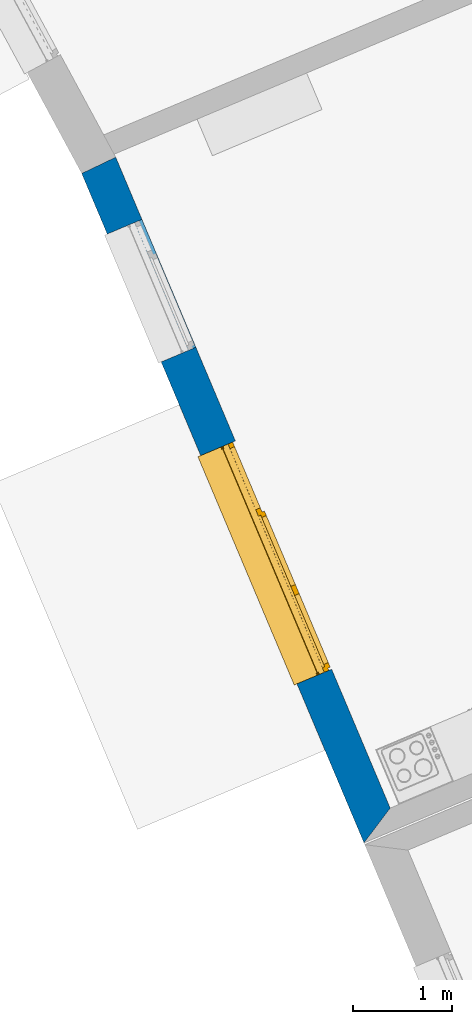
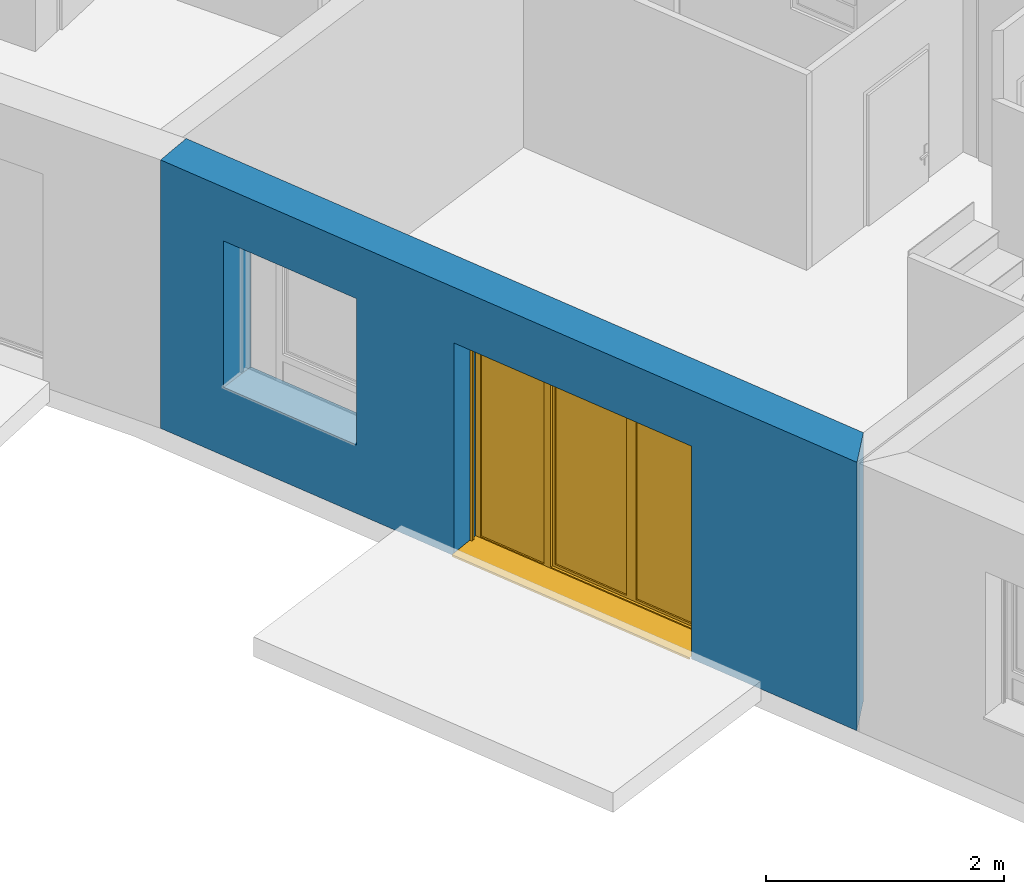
# One storey, part 57 of 195: 1 wall, 1 window, 2 openings.
"""IFC2X3 building model written with IfcOpenShell, lengths in metres."""

from ifc_helpers import new_model, entity, si_unit, converted_unit, derived_unit, money_unit, direction, frame, origin_with_axes, place, context, subcontext, project, spatial, polyline, outline, extrude, open_shell, faceted_brep, surface_model, source, transform, mapped, material, layer, layer_set, layer_usage, type_object, element, fill, save


model = new_model("IFC2X3")

# Units and contexts
model_context = context("Model", 3, precision=1e-05, world=origin_with_axes(), true_north=direction((0.0, 1.0)))
body_context = subcontext(model_context, "Body", "Model", "MODEL_VIEW")
ifc_project = project(units=[si_unit("LENGTHUNIT", "METRE"), si_unit("AREAUNIT", "SQUARE_METRE"), si_unit("VOLUMEUNIT", "CUBIC_METRE"), converted_unit("PLANEANGLEUNIT", "DEGREE", entity("IfcPlaneAngleMeasure", 0.0174532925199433), si_unit("PLANEANGLEUNIT", "RADIAN"), dimensions=[0, 0, 0, 0, 0, 0, 0]), money_unit("CHF"), converted_unit("TIMEUNIT", "Year", entity("IfcTimeMeasure", 31557600.0), si_unit("TIMEUNIT", "SECOND"), dimensions=[0, 0, 1, 0, 0, 0, 0]), si_unit("MASSUNIT", "GRAM", prefix="KILO"), si_unit("THERMODYNAMICTEMPERATUREUNIT", "DEGREE_CELSIUS"), si_unit("LUMINOUSINTENSITYUNIT", "LUMEN"), si_unit("ENERGYUNIT", "JOULE", prefix="MEGA"), derived_unit("THERMALCONDUCTANCEUNIT", [(si_unit("POWERUNIT", "WATT"), 1), (si_unit("LENGTHUNIT", "METRE"), -1), (si_unit("THERMODYNAMICTEMPERATUREUNIT", "KELVIN"), -1)]), derived_unit("SPECIFICHEATCAPACITYUNIT", [(si_unit("ENERGYUNIT", "JOULE"), 1), (si_unit("MASSUNIT", "GRAM", prefix="KILO"), -1), (si_unit("THERMODYNAMICTEMPERATUREUNIT", "KELVIN"), -1)]), derived_unit("MASSDENSITYUNIT", [(si_unit("MASSUNIT", "GRAM", prefix="KILO"), 1), (si_unit("VOLUMEUNIT", "CUBIC_METRE"), -1)])], contexts=[model_context])

# Site, building, storey
site_placement = place(None, origin_with_axes())
site = spatial("IfcSite", under=ifc_project, at=site_placement, Name="Site", CompositionType="ELEMENT")
building_placement = place(site_placement, origin_with_axes())
building = spatial("IfcBuilding", under=site, at=building_placement, Name="Bâtiment", CompositionType="ELEMENT")
storey_placement = place(building_placement, origin_with_axes())
storey = spatial("IfcBuildingStorey", under=building, at=storey_placement, Name="rdc", CompositionType="ELEMENT", Elevation=0.0)

# Wall, openings, window
ifc_material_1 = material(Name="Parpaing 312445824")
ifc_layer_1 = layer(ifc_material_1, 0.22, ventilated="UNKNOWN")
ifc_material_2 = material(Name="Isolant styromousse 301821074")
ifc_layer_2 = layer(ifc_material_2, 0.16, ventilated="UNKNOWN")
ifc_layer_set = layer_set([ifc_layer_1, ifc_layer_2], Name="isol int 22+16 0836643197")
ifc_layer_usage = layer_usage(ifc_layer_set, "AXIS2", "POSITIVE", 0.0)
wall_type = type_object("IfcWallType", Name="isol int 22+16 0836643197 380", PredefinedType="NOTDEFINED")
wall_placement = place(storey_placement, frame((9560.431539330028, -1038.563917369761, 57.7), z_axis=(0.0, 0.0, 1.0), x_axis=(0.3885669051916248, -0.9214205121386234, 0.0)))
wall = element("IfcWallStandardCase", 1, at=wall_placement, inside=storey, type_object=wall_type, material=ifc_layer_usage, Name="Mur-113", context=body_context, shape_type="SweptSolid", body=[
    extrude(outline(polyline([(0.0, 0.0), (7.331275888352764, 0.0), (7.111275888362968, 0.3799999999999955), (-0.01830169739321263, 0.3799999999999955), (0.0, 0.0)])), origin_with_axes(), (0.0, 0.0, 1.0), 2.75),
])
opening_1_placement = place(wall_placement, frame((4.33985535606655, 0.0, 0.0), z_axis=(0.0, 0.0, 1.0), x_axis=(1.0, 0.0, 0.0)))
opening_1 = element("IfcOpeningElement", 2, at=opening_1_placement, cuts=wall, Name="Fen-045", context=body_context, shape_type="Brep", body=[
    faceted_brep([(-1.25, 0.4800000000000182, 2.18), (1.250000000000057, 0.4800000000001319, 2.18), (1.25, 3.005842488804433, 2.18), (-1.25, 3.005842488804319, 2.18), (-1.25, 0.4800000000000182, 2.380000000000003), (1.250000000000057, 0.4800000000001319, 2.380000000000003), (1.250000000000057, 0.3000000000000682, 2.18), (1.250000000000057, 0.3000000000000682, 0.0), (1.25, 3.005842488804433, 0.0), (-1.25, 3.005842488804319, 0.0), (-1.25, 0.3000000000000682, 2.18), (-1.25, 0.3000000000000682, 0.0), (-1.25, 0.2200000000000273, 2.18), (-1.25, 0.2200000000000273, 2.380000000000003), (1.25, 0.220000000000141, 2.380000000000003), (1.25, 0.220000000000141, 2.18), (1.250000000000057, -2.625842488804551, 2.18), (1.250000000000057, -2.625842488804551, 0.0), (-1.25, -2.625842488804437, 0.0), (-1.25, -2.625842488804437, 2.18)], [[[0, 1, 2, 3]], [[1, 0, 4, 5]], [[1, 6, 7, 8, 2]], [[2, 8, 9, 3]], [[10, 0, 3, 9, 11]], [[0, 10, 12, 13, 4]], [[4, 13, 14, 5]], [[6, 1, 5, 14, 15]], [[6, 15, 16, 17, 7]], [[7, 11, 9, 8]], [[12, 10, 11, 18, 19]], [[12, 15, 14, 13]], [[15, 12, 19, 16]], [[19, 18, 17, 16]], [[11, 7, 17, 18]]]),
])
opening_2_placement = place(wall_placement, frame((1.363914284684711, 0.0, 0.7000000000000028), z_axis=(0.0, 0.0, 1.0), x_axis=(1.0, 0.0, 0.0)))
element("IfcOpeningElement", 3, at=opening_2_placement, cuts=wall, Name="Fen-045", context=body_context, shape_type="Brep", body=[
    faceted_brep([(-0.7000000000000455, 0.4800000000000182, 1.5), (0.7000000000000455, 0.4800000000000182, 1.5), (0.6999999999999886, 3.005842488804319, 1.5), (-0.6999999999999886, 3.005842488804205, 1.5), (-0.7000000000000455, 0.4800000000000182, 1.700000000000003), (0.7000000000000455, 0.4800000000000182, 1.700000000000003), (0.6999999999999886, 0.3000000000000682, 1.5), (0.7000000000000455, 0.2999999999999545, 0.0), (0.6999999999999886, 3.005842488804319, 0.0), (-0.6999999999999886, 3.005842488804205, 0.0), (-0.6999999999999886, 0.3000000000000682, 1.5), (-0.6999999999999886, 0.3000000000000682, 0.0), (-0.7000000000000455, 0.2199999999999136, 1.5), (-0.7000000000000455, 0.2199999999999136, 1.700000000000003), (0.6999999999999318, 0.2200000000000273, 1.700000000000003), (0.6999999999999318, 0.2200000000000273, 1.5), (0.6999999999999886, -2.625842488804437, 1.5), (0.6999999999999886, -2.625842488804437, 0.0), (-0.6999999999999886, -2.625842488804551, 0.0), (-0.6999999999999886, -2.625842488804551, 1.5)], [[[0, 1, 2, 3]], [[1, 0, 4, 5]], [[1, 6, 7, 8, 2]], [[2, 8, 9, 3]], [[10, 0, 3, 9, 11]], [[0, 10, 12, 13, 4]], [[4, 13, 14, 5]], [[6, 1, 5, 14, 15]], [[6, 15, 16, 17, 7]], [[7, 11, 9, 8]], [[12, 10, 11, 18, 19]], [[12, 15, 14, 13]], [[15, 12, 19, 16]], [[19, 18, 17, 16]], [[11, 7, 17, 18]]]),
])
window_style = type_object("IfcWindowStyle", Name="Fenêtre variable 27", ConstructionType="NOTDEFINED", OperationType="TRIPLE_PANEL_VERTICAL", ParameterTakesPrecedence=False, Sizeable=False)
shared_shape = source(origin_with_axes(), body_context, "Body", "SurfaceModel", [
    surface_model("IfcShellBasedSurfaceModel", [(1.25, -0.05100000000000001, 0.05), (-1.25, -0.05100000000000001, 0.05000000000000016), (-1.25, -0.05100000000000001, 0.04000000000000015), (1.25, -0.05100000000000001, 0.04), (-1.25, -0.3799999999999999, 0.02900000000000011), (1.25, -0.3799999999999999, 0.02899999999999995), (-1.25, -0.3799999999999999, 0.009000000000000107), (1.25, -0.3799999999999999, 0.008999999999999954), (-1.25, -0.3699999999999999, 0.01900000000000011), (1.25, -0.3699999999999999, 0.01899999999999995)], [open_shell([[[0, 1, 2, 3]], [[3, 2, 4, 5]], [[5, 4, 6, 7]], [[7, 6, 8, 9]]])]),
    faceted_brep([(1.25, -0.1300000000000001, 2.38), (1.25, 0.1299999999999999, 2.38), (1.247, 0.1299999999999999, 2.38), (1.247, -0.1300000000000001, 2.38), (1.25, -0.1300000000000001, 2.18), (1.25, 0.1299999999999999, 2.18), (1.247, 0.1299999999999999, 2.18), (1.247, -0.1300000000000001, 2.18)], [[[0, 1, 2, 3]], [[0, 4, 5, 1]], [[1, 5, 6, 2]], [[3, 2, 6, 7]], [[4, 0, 3, 7]], [[5, 4, 7, 6]]]),
    faceted_brep([(-1.247, -0.1299999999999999, 2.38), (-1.247, 0.1300000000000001, 2.38), (-1.25, 0.1300000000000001, 2.38), (-1.25, -0.1299999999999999, 2.38), (-1.247, -0.1299999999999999, 2.18), (-1.247, 0.1300000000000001, 2.18), (-1.25, 0.1300000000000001, 2.18), (-1.25, -0.1299999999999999, 2.18)], [[[0, 1, 2, 3]], [[0, 4, 5, 1]], [[1, 5, 6, 2]], [[3, 2, 6, 7]], [[4, 0, 3, 7]], [[5, 4, 7, 6]]]),
    faceted_brep([(1.247, -0.1300000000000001, 2.18), (1.247, -0.1300000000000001, 2.38), (-1.247, -0.1299999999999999, 2.38), (-1.247, -0.1299999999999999, 2.18), (1.247, -0.1270000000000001, 2.18), (1.247, -0.1270000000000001, 2.377), (1.247, 0.1269999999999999, 2.377), (1.247, 0.1269999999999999, 2.183), (1.247, -0.1080000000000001, 2.183), (1.247, -0.1080000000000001, 2.18), (1.247, 0.1299999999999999, 2.18), (1.247, 0.1299999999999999, 2.38), (-1.247, 0.1300000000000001, 2.38), (-1.247, 0.1300000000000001, 2.18), (-1.247, -0.1079999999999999, 2.18), (-1.247, -0.1079999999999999, 2.183), (-1.247, 0.1270000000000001, 2.183), (-1.247, 0.1270000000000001, 2.377), (-1.247, -0.1269999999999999, 2.377), (-1.247, -0.1269999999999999, 2.18)], [[[0, 1, 2, 3]], [[0, 4, 5, 6, 7, 8, 9, 10, 11, 1]], [[1, 11, 12, 2]], [[3, 2, 12, 13, 14, 15, 16, 17, 18, 19]], [[4, 0, 3, 19]], [[5, 4, 19, 18]], [[6, 5, 18, 17]], [[7, 6, 17, 16]], [[8, 7, 16, 15]], [[9, 8, 15, 14]], [[10, 9, 14, 13]], [[11, 10, 13, 12]]]),
    faceted_brep([(1.244, -0.08075423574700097, 2.265760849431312), (1.244, -0.07705479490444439, 2.251954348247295), (1.244, -0.07101408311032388, 2.239), (1.244, -0.06281564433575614, 2.227291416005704), (1.244, -0.05270858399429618, 2.217184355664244), (1.244, -0.04099999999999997, 2.208985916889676), (1.244, -0.02804565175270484, 2.202945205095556), (1.244, -0.01423915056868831, 2.199245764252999), (1.244, 0.0, 2.198), (1.244, 0.01423915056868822, 2.199245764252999), (1.244, 0.02804565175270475, 2.202945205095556), (1.244, 0.0409999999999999, 2.208985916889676), (1.244, 0.05270858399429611, 2.217184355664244), (1.244, 0.06281564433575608, 2.227291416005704), (1.244, 0.07101408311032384, 2.239), (1.244, 0.07705479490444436, 2.251954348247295), (1.244, 0.08075423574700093, 2.265760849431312), (1.244, 0.08199999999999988, 2.28), (1.244, 0.08075423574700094, 2.294239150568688), (1.244, 0.07705479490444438, 2.308045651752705), (1.244, 0.07101408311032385, 2.321), (1.244, 0.0628156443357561, 2.332708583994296), (1.244, 0.05270858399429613, 2.342815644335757), (1.244, 0.04099999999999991, 2.351014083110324), (1.244, 0.02804565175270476, 2.357054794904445), (1.244, 0.01423915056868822, 2.360754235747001), (1.244, 0.0, 2.362), (1.244, -0.01423915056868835, 2.360754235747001), (1.244, -0.0280456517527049, 2.357054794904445), (1.244, -0.04100000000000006, 2.351014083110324), (1.244, -0.05270858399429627, 2.342815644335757), (1.244, -0.06281564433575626, 2.332708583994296), (1.244, -0.07101408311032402, 2.321), (1.244, -0.07705479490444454, 2.308045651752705), (1.244, -0.08075423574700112, 2.294239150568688), (1.244, -0.08200000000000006, 2.28), (-1.244, -0.08075423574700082, 2.265760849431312), (-1.244, -0.07705479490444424, 2.251954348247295), (-1.244, -0.07101408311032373, 2.239), (-1.244, -0.06281564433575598, 2.227291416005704), (-1.244, -0.05270858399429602, 2.217184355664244), (-1.244, -0.04099999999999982, 2.208985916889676), (-1.244, -0.02804565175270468, 2.202945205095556), (-1.244, -0.01423915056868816, 2.199245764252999), (-1.244, 0.0, 2.198), (-1.244, 0.01423915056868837, 2.199245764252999), (-1.244, 0.02804565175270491, 2.202945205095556), (-1.244, 0.04100000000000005, 2.208985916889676), (-1.244, 0.05270858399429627, 2.217184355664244), (-1.244, 0.06281564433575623, 2.227291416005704), (-1.244, 0.07101408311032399, 2.239), (-1.244, 0.07705479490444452, 2.251954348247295), (-1.244, 0.08075423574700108, 2.265760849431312), (-1.244, 0.08200000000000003, 2.28), (-1.244, 0.0807542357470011, 2.294239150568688), (-1.244, 0.07705479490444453, 2.308045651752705), (-1.244, 0.071014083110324, 2.321), (-1.244, 0.06281564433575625, 2.332708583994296), (-1.244, 0.05270858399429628, 2.342815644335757), (-1.244, 0.04100000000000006, 2.351014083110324), (-1.244, 0.02804565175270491, 2.357054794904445), (-1.244, 0.01423915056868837, 2.360754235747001), (-1.244, 0.0, 2.362), (-1.244, -0.0142391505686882, 2.360754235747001), (-1.244, -0.02804565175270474, 2.357054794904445), (-1.244, -0.0409999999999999, 2.351014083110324), (-1.244, -0.05270858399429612, 2.342815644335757), (-1.244, -0.06281564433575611, 2.332708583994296), (-1.244, -0.07101408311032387, 2.321), (-1.244, -0.07705479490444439, 2.308045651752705), (-1.244, -0.08075423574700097, 2.294239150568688), (-1.244, -0.0819999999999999, 2.28)], [[[0, 1, 2, 3, 4, 5, 6, 7, 8, 9, 10, 11, 12, 13, 14, 15, 16, 17, 18, 19, 20, 21, 22, 23, 24, 25, 26, 27, 28, 29, 30, 31, 32, 33, 34, 35]], [[1, 0, 36, 37]], [[2, 1, 37, 38]], [[3, 2, 38, 39]], [[4, 3, 39, 40]], [[5, 4, 40, 41]], [[6, 5, 41, 42]], [[7, 6, 42, 43]], [[8, 7, 43, 44]], [[9, 8, 44, 45]], [[10, 9, 45, 46]], [[11, 10, 46, 47]], [[12, 11, 47, 48]], [[13, 12, 48, 49]], [[14, 13, 49, 50]], [[15, 14, 50, 51]], [[16, 15, 51, 52]], [[17, 16, 52, 53]], [[18, 17, 53, 54]], [[19, 18, 54, 55]], [[20, 19, 55, 56]], [[21, 20, 56, 57]], [[22, 21, 57, 58]], [[23, 22, 58, 59]], [[24, 23, 59, 60]], [[25, 24, 60, 61]], [[26, 25, 61, 62]], [[27, 26, 62, 63]], [[28, 27, 63, 64]], [[29, 28, 64, 65]], [[30, 29, 65, 66]], [[31, 30, 66, 67]], [[32, 31, 67, 68]], [[33, 32, 68, 69]], [[34, 33, 69, 70]], [[35, 34, 70, 71]], [[0, 35, 71, 36]], [[36, 71, 70, 69, 68, 67, 66, 65, 64, 63, 62, 61, 60, 59, 58, 57, 56, 55, 54, 53, 52, 51, 50, 49, 48, 47, 46, 45, 44, 43, 42, 41, 40, 39, 38, 37]]]),
    faceted_brep([(-1.25, -0.105, 0.03), (-1.25, -0.13, 0.03), (-1.25, -0.1299999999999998, 2.18), (-1.25, -0.1049999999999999, 2.18), (-1.225, -0.105, 0.03), (-1.225, -0.108, 0.03), (-1.247, -0.108, 0.03), (-1.247, -0.127, 0.03), (-1.225, -0.127, 0.03), (-1.225, -0.13, 0.03), (-1.225, -0.1299999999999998, 2.18), (-1.225, -0.1269999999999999, 2.18), (-1.247, -0.1269999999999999, 2.18), (-1.247, -0.1079999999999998, 2.18), (-1.225, -0.1079999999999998, 2.18), (-1.225, -0.1049999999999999, 2.18)], [[[0, 1, 2, 3]], [[0, 4, 5, 6, 7, 8, 9, 1]], [[1, 9, 10, 2]], [[3, 2, 10, 11, 12, 13, 14, 15]], [[4, 0, 3, 15]], [[5, 4, 15, 14]], [[6, 5, 14, 13]], [[7, 6, 13, 12]], [[8, 7, 12, 11]], [[9, 8, 11, 10]]]),
    faceted_brep([(1.25, -0.105, 0.03), (1.25, -0.1049999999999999, 2.18), (1.25, -0.1299999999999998, 2.18), (1.25, -0.13, 0.03), (1.225, -0.105, 0.03), (1.225, -0.1049999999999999, 2.18), (1.225, -0.1079999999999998, 2.18), (1.247, -0.1079999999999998, 2.18), (1.247, -0.1269999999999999, 2.18), (1.225, -0.1269999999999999, 2.18), (1.225, -0.1299999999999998, 2.18), (1.225, -0.13, 0.03), (1.225, -0.127, 0.03), (1.247, -0.127, 0.03), (1.247, -0.108, 0.03), (1.225, -0.108, 0.03)], [[[0, 1, 2, 3]], [[4, 5, 1, 0]], [[1, 5, 6, 7, 8, 9, 10, 2]], [[3, 2, 10, 11]], [[0, 3, 11, 12, 13, 14, 15, 4]], [[15, 6, 5, 4]], [[14, 7, 6, 15]], [[13, 8, 7, 14]], [[12, 9, 8, 13]], [[11, 10, 9, 12]]]),
    surface_model("IfcShellBasedSurfaceModel", [(1.247, -0.115, 2.28), (-1.247, -0.1149999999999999, 2.28), (-1.247, -0.1199999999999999, 2.28), (1.247, -0.1200000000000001, 2.28), (1.247, -0.115, 2.28), (1.247, -0.1200000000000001, 2.28), (-1.247, -0.1199999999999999, 2.28), (-1.247, -0.1149999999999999, 2.28)], [open_shell([[[0, 1, 2, 3]], [[4, 5, 6, 7]]])]),
    faceted_brep([(1.247, -0.115, 2.28), (1.247, -0.1166666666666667, 2.263333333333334), (-1.247, -0.1166666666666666, 2.263333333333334), (-1.247, -0.1149999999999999, 2.28), (1.247, -0.1200000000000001, 2.28), (1.247, -0.1216666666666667, 2.263333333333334), (1.247, -0.1216666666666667, 2.246666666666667), (1.247, -0.1200000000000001, 2.23), (1.247, -0.115, 2.23), (1.247, -0.1166666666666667, 2.246666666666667), (-1.247, -0.1166666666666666, 2.246666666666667), (-1.247, -0.1149999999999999, 2.23), (-1.247, -0.1199999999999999, 2.23), (-1.247, -0.1216666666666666, 2.246666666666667), (-1.247, -0.1216666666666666, 2.263333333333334), (-1.247, -0.1199999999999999, 2.28)], [[[0, 1, 2, 3]], [[0, 4, 5, 6, 7, 8, 9, 1]], [[1, 9, 10, 2]], [[3, 2, 10, 11, 12, 13, 14, 15]], [[4, 0, 3, 15]], [[5, 4, 15, 14]], [[6, 5, 14, 13]], [[7, 6, 13, 12]], [[8, 7, 12, 11]], [[9, 8, 11, 10]]]),
    faceted_brep([(1.247, -0.115, 2.23), (1.247, -0.1166666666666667, 2.213333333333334), (-1.247, -0.1166666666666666, 2.213333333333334), (-1.247, -0.1149999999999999, 2.23), (1.247, -0.1200000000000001, 2.23), (1.247, -0.1216666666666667, 2.213333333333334), (1.247, -0.1216666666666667, 2.196666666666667), (1.247, -0.1200000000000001, 2.180000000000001), (1.247, -0.115, 2.180000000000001), (1.247, -0.1166666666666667, 2.196666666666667), (-1.247, -0.1166666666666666, 2.196666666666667), (-1.247, -0.1149999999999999, 2.180000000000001), (-1.247, -0.1199999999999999, 2.180000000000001), (-1.247, -0.1216666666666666, 2.196666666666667), (-1.247, -0.1216666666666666, 2.213333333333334), (-1.247, -0.1199999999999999, 2.23)], [[[0, 1, 2, 3]], [[0, 4, 5, 6, 7, 8, 9, 1]], [[1, 9, 10, 2]], [[3, 2, 10, 11, 12, 13, 14, 15]], [[4, 0, 3, 15]], [[5, 4, 15, 14]], [[6, 5, 14, 13]], [[7, 6, 13, 12]], [[8, 7, 12, 11]], [[9, 8, 11, 10]]]),
    faceted_brep([(1.225, 0.0, 2.13), (1.225, -0.02500000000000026, 2.13), (1.2, -0.02500000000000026, 2.13), (1.2, -0.05000000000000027, 2.13), (1.25, -0.05000000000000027, 2.13), (1.25, 0.0, 2.13), (1.225, 0.0, 0.05000000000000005), (1.225, -0.02500000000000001, 0.05000000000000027), (1.2, -0.02500000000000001, 0.05000000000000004), (1.2, -0.05000000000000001, 0.05000000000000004), (1.25, -0.05000000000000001, 0.05000000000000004), (1.25, 0.0, 0.05000000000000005)], [[[0, 1, 2, 3, 4, 5]], [[1, 0, 6, 7]], [[8, 2, 1, 7]], [[2, 8, 9, 3]], [[4, 3, 9, 10]], [[5, 4, 10, 11]], [[6, 0, 5, 11]], [[7, 6, 11, 10, 9, 8]]]),
    faceted_brep([(-0.4600000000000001, -0.02500000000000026, 2.13), (-0.4850000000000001, -0.02500000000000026, 2.13), (-0.4850000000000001, 0.0, 2.13), (-0.5300000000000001, 0.0, 2.13), (-0.5300000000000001, -0.05000000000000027, 2.13), (-0.4600000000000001, -0.05000000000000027, 2.13), (-0.4600000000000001, -0.02500000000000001, 0.05000000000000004), (-0.4850000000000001, -0.02500000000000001, 0.05000000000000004), (-0.4850000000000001, 0.0, 0.05000000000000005), (-0.5300000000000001, 0.0, 0.05000000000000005), (-0.5300000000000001, -0.05000000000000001, 0.05000000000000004), (-0.4600000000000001, -0.05000000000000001, 0.05000000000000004)], [[[0, 1, 2, 3, 4, 5]], [[1, 0, 6, 7]], [[8, 2, 1, 7]], [[2, 8, 9, 3]], [[9, 10, 4, 3]], [[10, 11, 5, 4]], [[6, 0, 5, 11]], [[7, 6, 11, 10, 9, 8]]]),
    faceted_brep([(-0.4600000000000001, -0.02500000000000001, 0.05000000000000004), (-0.4850000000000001, -0.02500000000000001, 0.05000000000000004), (-0.4850000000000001, 0.0, 0.05000000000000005), (-0.5300000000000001, 0.0, 0.05000000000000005), (-0.5300000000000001, -0.05000000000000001, 0.05000000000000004), (-0.4600000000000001, -0.05000000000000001, 0.05000000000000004), (1.2, -0.02500000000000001, 0.05000000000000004), (1.225, -0.02500000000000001, 0.05000000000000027), (1.225, -0.025, 0.02499999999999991), (-0.4850000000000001, -0.025, 0.02499999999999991), (-0.4850000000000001, 0.0, 0.02499999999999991), (1.225, 0.0, 0.02499999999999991), (1.225, 0.0, 0.05000000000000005), (1.25, 0.0, 0.05000000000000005), (1.25, 0.0, 0.0), (-1.25, 0.0, 0.0), (-1.25, 0.0, 0.05000000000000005), (-1.2, 0.0, 0.05000000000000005), (-1.2, -0.05000000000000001, 0.05000000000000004), (1.25, -0.05000000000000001, 0.05000000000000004), (1.2, -0.05000000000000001, 0.05000000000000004), (-1.25, -0.05000000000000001, 0.05000000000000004), (-1.25, -0.05, 0.0), (1.25, -0.05, 0.0)], [[[0, 1, 2, 3, 4, 5]], [[1, 0, 6, 7, 8, 9]], [[10, 2, 1, 9]], [[11, 12, 13, 14, 15, 16, 17, 3, 2, 10]], [[17, 18, 4, 3]], [[19, 20, 5, 4, 18, 21, 22, 23]], [[6, 0, 5, 20]], [[7, 6, 20, 19, 13, 12]], [[7, 12, 11, 8]], [[11, 10, 9, 8]], [[13, 19, 23, 14]], [[14, 23, 22, 15]], [[15, 22, 21, 16]], [[16, 21, 18, 17]]]),
    faceted_brep([(1.225, 0.0, 2.13), (1.225, 0.0, 2.155), (-0.4850000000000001, 0.0, 2.155), (-0.4850000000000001, 0.0, 2.13), (-0.5300000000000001, 0.0, 2.13), (-1.2, 0.0, 2.13), (-1.25, 0.0, 2.13), (-1.25, 0.0, 2.18), (1.25, 0.0, 2.18), (1.25, 0.0, 2.13), (1.225, -0.02500000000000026, 2.13), (1.225, -0.02500000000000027, 2.155), (-0.4850000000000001, -0.02500000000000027, 2.155), (-0.4850000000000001, -0.02500000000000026, 2.13), (-0.4600000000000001, -0.02500000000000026, 2.13), (-0.4600000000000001, -0.05000000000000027, 2.13), (-0.5300000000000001, -0.05000000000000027, 2.13), (-1.2, -0.05000000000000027, 2.13), (-1.25, -0.05000000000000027, 2.13), (-1.25, -0.05000000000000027, 2.18), (1.25, -0.05000000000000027, 2.18), (1.25, -0.05000000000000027, 2.13), (1.2, -0.05000000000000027, 2.13), (1.2, -0.02500000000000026, 2.13)], [[[0, 1, 2, 3, 4, 5, 6, 7, 8, 9]], [[1, 0, 10, 11]], [[2, 1, 11, 12]], [[3, 2, 12, 13]], [[13, 14, 15, 16, 4, 3]], [[4, 16, 17, 5]], [[5, 17, 18, 6]], [[6, 18, 19, 7]], [[7, 19, 20, 8]], [[8, 20, 21, 9]], [[10, 0, 9, 21, 22, 23]], [[14, 13, 12, 11, 10, 23]], [[14, 23, 22, 15]], [[16, 15, 22, 21, 20, 19, 18, 17]]]),
    faceted_brep([(-1.2, -0.05000000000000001, 0.05), (-1.25, -0.05000000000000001, 0.05), (-1.25, 0.0, 0.05000000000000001), (-1.2, 0.0, 0.05000000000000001), (-1.2, -0.05000000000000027, 2.13), (-1.25, -0.05000000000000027, 2.13), (-1.25, 0.0, 2.13), (-1.2, 0.0, 2.13)], [[[0, 1, 2, 3]], [[0, 4, 5, 1]], [[1, 5, 6, 2]], [[3, 2, 6, 7]], [[4, 0, 3, 7]], [[5, 4, 7, 6]]]),
    faceted_brep([(0.3199999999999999, -0.02500000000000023, 2.105), (0.3699999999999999, -0.02500000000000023, 2.105), (0.3699999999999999, 0.02499999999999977, 2.105), (0.3199999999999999, 0.02499999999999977, 2.105), (0.3199999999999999, -0.02499999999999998, 0.07500000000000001), (0.3699999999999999, -0.02499999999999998, 0.07500000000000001), (0.3699999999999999, 0.02500000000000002, 0.07500000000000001), (0.3199999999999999, 0.02500000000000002, 0.07500000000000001)], [[[0, 1, 2, 3]], [[0, 4, 5, 1]], [[1, 5, 6, 2]], [[3, 2, 6, 7]], [[4, 0, 3, 7]], [[5, 4, 7, 6]]]),
    faceted_brep([(-0.4350000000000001, -0.02500000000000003, 0.07500000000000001), (-0.4850000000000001, -0.02500000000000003, 0.07500000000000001), (-0.4850000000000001, 0.02499999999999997, 0.07500000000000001), (-0.4350000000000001, 0.02499999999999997, 0.07500000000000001), (-0.4350000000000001, -0.02500000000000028, 2.105), (-0.4850000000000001, -0.02500000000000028, 2.105), (-0.4850000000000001, 0.02499999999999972, 2.105), (-0.4350000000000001, 0.02499999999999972, 2.105)], [[[0, 1, 2, 3]], [[0, 4, 5, 1]], [[1, 5, 6, 2]], [[3, 2, 6, 7]], [[4, 0, 3, 7]], [[5, 4, 7, 6]]]),
    faceted_brep([(-0.4850000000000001, -0.02500000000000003, 0.025), (-0.4850000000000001, -0.02500000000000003, 0.07500000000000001), (-0.4850000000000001, 0.02499999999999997, 0.07500000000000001), (-0.4850000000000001, 0.02499999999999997, 0.02500000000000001), (0.3699999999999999, -0.02499999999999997, 0.025), (0.3699999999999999, -0.02499999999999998, 0.07500000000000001), (0.3199999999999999, -0.02499999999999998, 0.07500000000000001), (-0.4350000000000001, -0.02500000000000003, 0.07500000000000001), (-0.4350000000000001, 0.02499999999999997, 0.07500000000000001), (0.3199999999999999, 0.02500000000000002, 0.07500000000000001), (0.3699999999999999, 0.02500000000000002, 0.07500000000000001), (0.3699999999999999, 0.02500000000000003, 0.02500000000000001)], [[[0, 1, 2, 3]], [[0, 4, 5, 6, 7, 1]], [[1, 7, 8, 2]], [[3, 2, 8, 9, 10, 11]], [[4, 0, 3, 11]], [[5, 4, 11, 10]], [[6, 5, 10, 9]], [[7, 6, 9, 8]]]),
    faceted_brep([(0.3699999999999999, -0.02500000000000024, 2.155), (0.3699999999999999, -0.02500000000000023, 2.105), (0.3699999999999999, 0.02499999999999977, 2.105), (0.3699999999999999, 0.02499999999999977, 2.155), (-0.4850000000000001, -0.02500000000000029, 2.155), (-0.4850000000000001, -0.02500000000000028, 2.105), (-0.4350000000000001, -0.02500000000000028, 2.105), (0.3199999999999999, -0.02500000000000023, 2.105), (0.3199999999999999, 0.02499999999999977, 2.105), (-0.4350000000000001, 0.02499999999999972, 2.105), (-0.4850000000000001, 0.02499999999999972, 2.105), (-0.4850000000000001, 0.02499999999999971, 2.155)], [[[0, 1, 2, 3]], [[0, 4, 5, 6, 7, 1]], [[1, 7, 8, 2]], [[3, 2, 8, 9, 10, 11]], [[4, 0, 3, 11]], [[5, 4, 11, 10]], [[6, 5, 10, 9]], [[7, 6, 9, 8]]]),
    surface_model("IfcShellBasedSurfaceModel", [(0.3199999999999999, -0.01000000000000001, 0.07500000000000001), (0.3199999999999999, -0.01000000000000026, 2.105), (-0.4350000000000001, -0.01000000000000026, 2.105), (-0.4350000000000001, -0.01000000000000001, 0.07500000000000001)], [open_shell([[[0, 1, 2, 3]]])]),
    surface_model("IfcShellBasedSurfaceModel", [(0.3199999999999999, 0.009999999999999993, 0.07500000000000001), (-0.4350000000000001, 0.009999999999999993, 0.07500000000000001), (-0.4350000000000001, 0.009999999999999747, 2.105), (0.3199999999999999, 0.009999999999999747, 2.105)], [open_shell([[[0, 1, 2, 3]]])]),
    faceted_brep([(1.175, -0.02500000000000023, 2.105), (1.225, -0.02500000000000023, 2.105), (1.225, 0.02499999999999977, 2.105), (1.175, 0.02499999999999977, 2.105), (1.175, -0.02499999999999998, 0.07500000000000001), (1.225, -0.02499999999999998, 0.07500000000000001), (1.225, 0.02500000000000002, 0.07500000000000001), (1.175, 0.02500000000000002, 0.07500000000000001)], [[[0, 1, 2, 3]], [[0, 4, 5, 1]], [[1, 5, 6, 2]], [[3, 2, 6, 7]], [[4, 0, 3, 7]], [[5, 4, 7, 6]]]),
    faceted_brep([(0.4199999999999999, -0.02500000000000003, 0.07500000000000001), (0.3699999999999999, -0.02500000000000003, 0.07500000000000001), (0.3699999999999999, 0.02499999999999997, 0.07500000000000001), (0.4199999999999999, 0.02499999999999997, 0.07500000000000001), (0.4199999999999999, -0.02500000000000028, 2.105), (0.3699999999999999, -0.02500000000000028, 2.105), (0.3699999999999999, 0.02499999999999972, 2.105), (0.4199999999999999, 0.02499999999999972, 2.105)], [[[0, 1, 2, 3]], [[0, 4, 5, 1]], [[1, 5, 6, 2]], [[3, 2, 6, 7]], [[4, 0, 3, 7]], [[5, 4, 7, 6]]]),
    faceted_brep([(0.3699999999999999, -0.02500000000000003, 0.025), (0.3699999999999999, -0.02500000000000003, 0.07500000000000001), (0.3699999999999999, 0.02499999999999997, 0.07500000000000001), (0.3699999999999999, 0.02499999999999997, 0.02500000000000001), (1.225, -0.02499999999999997, 0.025), (1.225, -0.02499999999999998, 0.07500000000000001), (1.175, -0.02499999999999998, 0.07500000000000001), (0.4199999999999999, -0.02500000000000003, 0.07500000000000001), (0.4199999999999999, 0.02499999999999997, 0.07500000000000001), (1.175, 0.02500000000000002, 0.07500000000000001), (1.225, 0.02500000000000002, 0.07500000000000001), (1.225, 0.02500000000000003, 0.02500000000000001)], [[[0, 1, 2, 3]], [[0, 4, 5, 6, 7, 1]], [[1, 7, 8, 2]], [[3, 2, 8, 9, 10, 11]], [[4, 0, 3, 11]], [[5, 4, 11, 10]], [[6, 5, 10, 9]], [[7, 6, 9, 8]]]),
    faceted_brep([(1.225, -0.02500000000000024, 2.155), (1.225, -0.02500000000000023, 2.105), (1.225, 0.02499999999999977, 2.105), (1.225, 0.02499999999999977, 2.155), (0.3699999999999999, -0.02500000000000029, 2.155), (0.3699999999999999, -0.02500000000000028, 2.105), (0.4199999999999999, -0.02500000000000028, 2.105), (1.175, -0.02500000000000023, 2.105), (1.175, 0.02499999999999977, 2.105), (0.4199999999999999, 0.02499999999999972, 2.105), (0.3699999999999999, 0.02499999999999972, 2.105), (0.3699999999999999, 0.02499999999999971, 2.155)], [[[0, 1, 2, 3]], [[0, 4, 5, 6, 7, 1]], [[1, 7, 8, 2]], [[3, 2, 8, 9, 10, 11]], [[4, 0, 3, 11]], [[5, 4, 11, 10]], [[6, 5, 10, 9]], [[7, 6, 9, 8]]]),
    surface_model("IfcShellBasedSurfaceModel", [(1.175, -0.01000000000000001, 0.07500000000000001), (1.175, -0.01000000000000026, 2.105), (0.4199999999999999, -0.01000000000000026, 2.105), (0.4199999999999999, -0.01000000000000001, 0.07500000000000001)], [open_shell([[[0, 1, 2, 3]]])]),
    surface_model("IfcShellBasedSurfaceModel", [(1.175, 0.009999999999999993, 0.07500000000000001), (0.4199999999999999, 0.009999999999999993, 0.07500000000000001), (0.4199999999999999, 0.009999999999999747, 2.105), (1.175, 0.009999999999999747, 2.105)], [open_shell([[[0, 1, 2, 3]]])]),
    surface_model("IfcShellBasedSurfaceModel", [(-0.5300000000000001, -0.035, 0.05), (-0.5300000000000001, -0.03500000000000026, 2.13), (-1.2, -0.03500000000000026, 2.13), (-1.2, -0.035, 0.05)], [open_shell([[[0, 1, 2, 3]]])]),
    surface_model("IfcShellBasedSurfaceModel", [(-0.5300000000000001, -0.015, 0.05), (-1.2, -0.015, 0.05), (-1.2, -0.01500000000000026, 2.13), (-0.5300000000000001, -0.01500000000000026, 2.13)], [open_shell([[[0, 1, 2, 3]]])]),
])
window_placement = place(opening_1_placement, frame((-1.25, 0.0, 0.0), z_axis=(0.0, 0.0, 1.0), x_axis=(1.0, 0.0, 0.0)))
window = element("IfcWindow", 4, at=window_placement, inside=storey, type_object=window_style, Name="Fen-045", OverallHeight=2.18, OverallWidth=2.5, context=body_context, shape_type="MappedRepresentation", body=[
    mapped(shared_shape, transform((1.25, 0.3500000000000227, 0.0))),
])
fill(opening_1, window)

save(model, "model.ifc")
